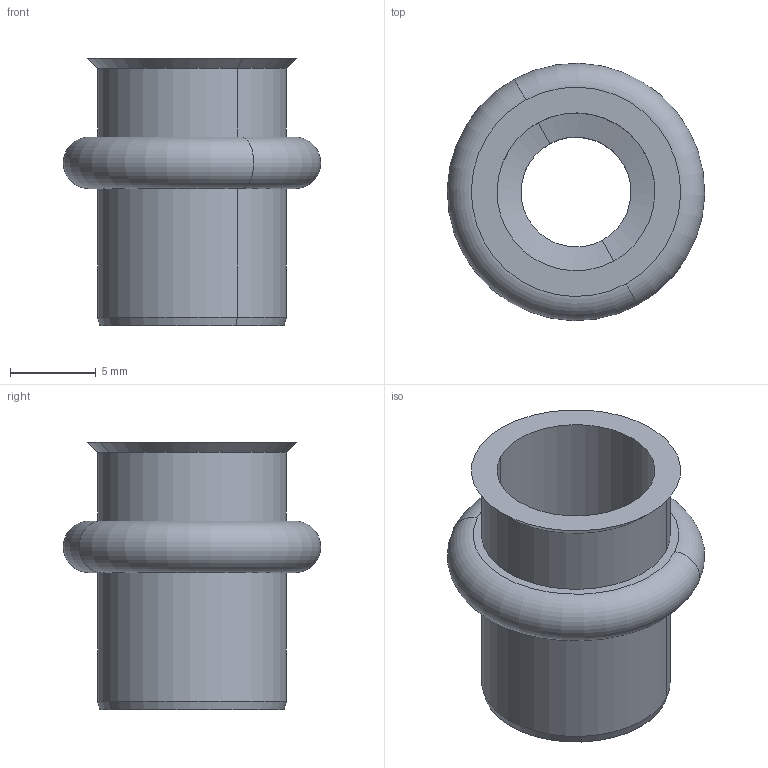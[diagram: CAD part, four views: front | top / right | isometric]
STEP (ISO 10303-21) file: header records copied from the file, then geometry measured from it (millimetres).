
FILE_DESCRIPTION(('CATIA V5 STEP Exchange'),'2;1');
FILE_NAME('D:\Desktop\EGT214.stp','2016-06-19T08:41:24+00:00',('none'),('none'),'CATIA Version 5 Release 21 SP 3 (IN-10)','CATIA V5 STEP AP203','none');
FILE_SCHEMA(('CONFIG_CONTROL_DESIGN'));
Length unit declared in the file: millimetre
Products named in the file (1): 81-30D_323283_________00_040_EGT_214_BLINDNIET_M8
Bounding box: 15 x 15 x 15.6 mm (x, y, z)
Volume: 955.1 mm3; surface area: 1196.5 mm2
Topology: 1 solids, 1 shells, 20 faces, 40 edges, 24 vertices
Faces by surface type: cylinder 8, cone 6, plane 4, torus 2
Entity records: 501 total; most frequent: ORIENTED_EDGE 80, CARTESIAN_POINT 76, DIRECTION 62, EDGE_CURVE 40, AXIS2_PLACEMENT_3D 38, CIRCLE 26, EDGE_LOOP 24, VERTEX_POINT 24
